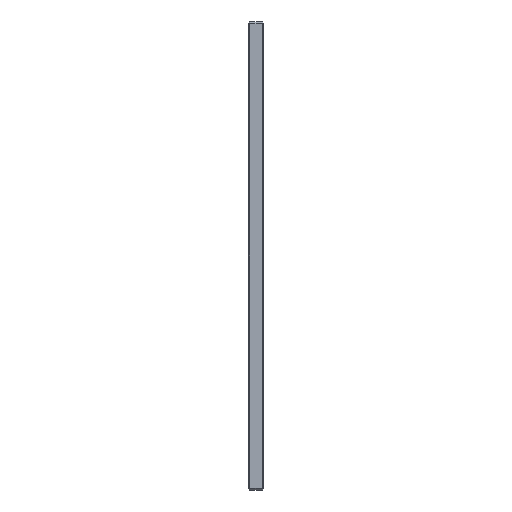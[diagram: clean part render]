
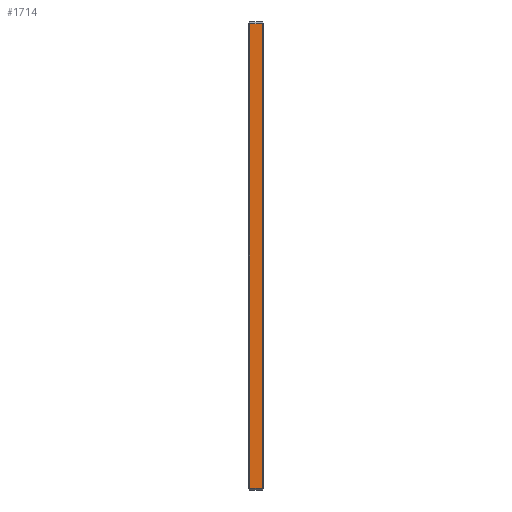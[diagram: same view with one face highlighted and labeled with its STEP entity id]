
A CAD part, left-side view. The second image highlights one B-rep face of the part: STEP entity #1714.
In plain terms, the highlighted planar face has unit normal (-1, 0, 0).
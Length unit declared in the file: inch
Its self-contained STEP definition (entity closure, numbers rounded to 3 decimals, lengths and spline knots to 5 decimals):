
#30 = VERTEX_POINT ( 'NONE', #281 ) ;
#67 = CARTESIAN_POINT ( 'NONE',  ( -8.875, 0.5, -7.325 ) ) ;
#149 = DIRECTION ( 'NONE',  ( 1., 0., 0. ) ) ;
#166 = CARTESIAN_POINT ( 'NONE',  ( -8.875, 0.45, 7.325 ) ) ;
#171 = LINE ( 'NONE', #1261, #429 ) ;
#226 = VERTEX_POINT ( 'NONE', #166 ) ;
#281 = CARTESIAN_POINT ( 'NONE',  ( -8.875, 0.05, 7.325 ) ) ;
#303 = ORIENTED_EDGE ( 'NONE', *, *, #783, .T. ) ;
#352 = DIRECTION ( 'NONE',  ( 0., -1., 0. ) ) ;
#377 = DIRECTION ( 'NONE',  ( 0., 1., 0. ) ) ;
#429 = VECTOR ( 'NONE', #377, 39.37008 ) ;
#436 = VERTEX_POINT ( 'NONE', #1125 ) ;
#596 = DIRECTION ( 'NONE',  ( 0., 0., -1. ) ) ;
#620 = LINE ( 'NONE', #67, #1875 ) ;
#783 = EDGE_CURVE ( 'NONE', #436, #30, #863, .T. ) ;
#863 = LINE ( 'NONE', #1354, #1126 ) ;
#902 = FACE_OUTER_BOUND ( 'NONE', #1814, .T. ) ;
#911 = ORIENTED_EDGE ( 'NONE', *, *, #1545, .T. ) ;
#994 = CARTESIAN_POINT ( 'NONE',  ( -8.875, 0.5, -7.375 ) ) ;
#1055 = DIRECTION ( 'NONE',  ( 0., 0., -1. ) ) ;
#1125 = CARTESIAN_POINT ( 'NONE',  ( -8.875, 0.05, -7.325 ) ) ;
#1126 = VECTOR ( 'NONE', #1504, 39.37008 ) ;
#1128 = AXIS2_PLACEMENT_3D ( 'NONE', #994, #149, #1055 ) ;
#1147 = LINE ( 'NONE', #1484, #1378 ) ;
#1261 = CARTESIAN_POINT ( 'NONE',  ( -8.875, 0.5, 7.325 ) ) ;
#1317 = PLANE ( 'NONE',  #1128 ) ;
#1327 = CARTESIAN_POINT ( 'NONE',  ( -8.875, 0.45, -7.325 ) ) ;
#1354 = CARTESIAN_POINT ( 'NONE',  ( -8.875, 0.05, -7.375 ) ) ;
#1378 = VECTOR ( 'NONE', #596, 39.37008 ) ;
#1467 = EDGE_CURVE ( 'NONE', #1792, #436, #620, .T. ) ;
#1484 = CARTESIAN_POINT ( 'NONE',  ( -8.875, 0.45, -7.375 ) ) ;
#1504 = DIRECTION ( 'NONE',  ( 0., 0., 1. ) ) ;
#1545 = EDGE_CURVE ( 'NONE', #30, #226, #171, .T. ) ;
#1563 = EDGE_CURVE ( 'NONE', #226, #1792, #1147, .T. ) ;
#1714 = ADVANCED_FACE ( 'Placement Plane', ( #902 ), #1317, .F. ) ;
#1728 = ORIENTED_EDGE ( 'NONE', *, *, #1563, .T. ) ;
#1792 = VERTEX_POINT ( 'NONE', #1327 ) ;
#1814 = EDGE_LOOP ( 'NONE', ( #1728, #1886, #303, #911 ) ) ;
#1875 = VECTOR ( 'NONE', #352, 39.37008 ) ;
#1886 = ORIENTED_EDGE ( 'NONE', *, *, #1467, .T. ) ;
